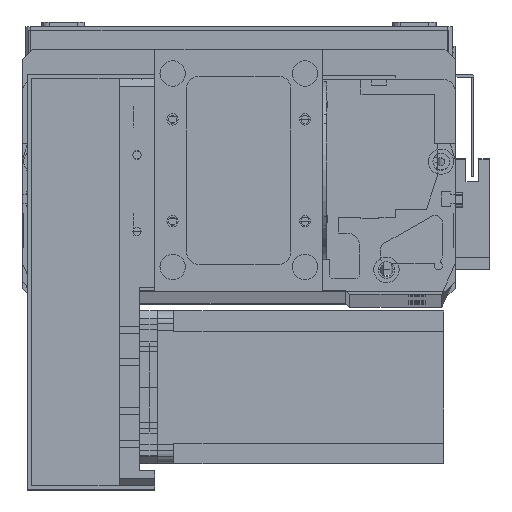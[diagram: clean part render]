
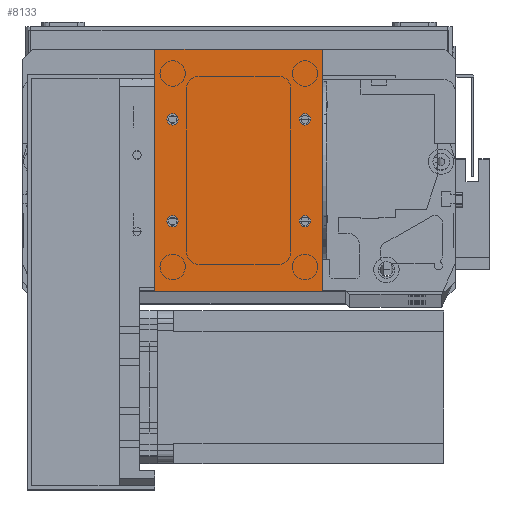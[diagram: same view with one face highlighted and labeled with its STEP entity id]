
A CAD part, top view. The second image highlights one B-rep face of the part: STEP entity #8133.
In plain terms, the highlighted planar face has unit normal (0, 0, 1).
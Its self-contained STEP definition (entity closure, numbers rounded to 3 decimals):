
#50 = CARTESIAN_POINT ( 'NONE',  ( 0., 0., 2. ) ) ;
#226 = DIRECTION ( 'NONE',  ( 0., 0., 1. ) ) ;
#425 = VERTEX_POINT ( 'NONE', #28107 ) ;
#739 = DIRECTION ( 'NONE',  ( 1., 0., 0. ) ) ;
#1051 = CIRCLE ( 'NONE', #2002, 2.25 ) ;
#1779 = VECTOR ( 'NONE', #20737, 1000. ) ;
#1782 = CIRCLE ( 'NONE', #9198, 2.25 ) ;
#1887 = VERTEX_POINT ( 'NONE', #33655 ) ;
#2002 = AXIS2_PLACEMENT_3D ( 'NONE', #16542, #226, #19227 ) ;
#2747 = DIRECTION ( 'NONE',  ( 1., 0., 0. ) ) ;
#2835 = DIRECTION ( 'NONE',  ( 0., -1., 0. ) ) ;
#3244 = EDGE_LOOP ( 'NONE', ( #32224, #17122 ) ) ;
#3737 = AXIS2_PLACEMENT_3D ( 'NONE', #29887, #13954, #32521 ) ;
#3936 = CARTESIAN_POINT ( 'NONE',  ( 66., 95., 2. ) ) ;
#4039 = CARTESIAN_POINT ( 'NONE',  ( 4.75, 27.5, 2. ) ) ;
#4128 = AXIS2_PLACEMENT_3D ( 'NONE', #22958, #22666, #22571 ) ;
#4409 = VERTEX_POINT ( 'NONE', #23104 ) ;
#5133 = AXIS2_PLACEMENT_3D ( 'NONE', #21686, #5594, #24367 ) ;
#5594 = DIRECTION ( 'NONE',  ( 0., 0., 1. ) ) ;
#6600 = EDGE_LOOP ( 'NONE', ( #16199, #31674, #17191, #31506 ) ) ;
#6657 = VERTEX_POINT ( 'NONE', #3936 ) ;
#6850 = CARTESIAN_POINT ( 'NONE',  ( 0., 95., 2. ) ) ;
#6929 = EDGE_CURVE ( 'NONE', #425, #1887, #25823, .T. ) ;
#7018 = VERTEX_POINT ( 'NONE', #27268 ) ;
#7365 = VERTEX_POINT ( 'NONE', #6850 ) ;
#8133 = ADVANCED_FACE ( 'NONE', ( #23633, #30687, #11014, #16525, #9360 ), #23090, .F. ) ;
#8630 = LINE ( 'NONE', #50, #22936 ) ;
#8817 = DIRECTION ( 'NONE',  ( 0., 1., 0. ) ) ;
#9056 = LINE ( 'NONE', #20620, #1779 ) ;
#9198 = AXIS2_PLACEMENT_3D ( 'NONE', #34783, #18975, #2747 ) ;
#9360 = FACE_OUTER_BOUND ( 'NONE', #6600, .T. ) ;
#10267 = VERTEX_POINT ( 'NONE', #25115 ) ;
#10383 = VERTEX_POINT ( 'NONE', #23878 ) ;
#10766 = AXIS2_PLACEMENT_3D ( 'NONE', #28517, #12486, #31132 ) ;
#11014 = FACE_BOUND ( 'NONE', #26679, .T. ) ;
#11975 = VERTEX_POINT ( 'NONE', #4039 ) ;
#12062 = CARTESIAN_POINT ( 'NONE',  ( 59., 27.5, 2. ) ) ;
#12486 = DIRECTION ( 'NONE',  ( 0., 0., 1. ) ) ;
#12512 = AXIS2_PLACEMENT_3D ( 'NONE', #12062, #30727, #14821 ) ;
#12629 = ORIENTED_EDGE ( 'NONE', *, *, #20988, .F. ) ;
#12935 = AXIS2_PLACEMENT_3D ( 'NONE', #29509, #29765, #29701 ) ;
#13006 = VECTOR ( 'NONE', #8817, 1000. ) ;
#13954 = DIRECTION ( 'NONE',  ( 0., 0., 1. ) ) ;
#14821 = DIRECTION ( 'NONE',  ( 1., 0., 0. ) ) ;
#14884 = AXIS2_PLACEMENT_3D ( 'NONE', #32887, #17023, #739 ) ;
#15709 = VERTEX_POINT ( 'NONE', #29114 ) ;
#16199 = ORIENTED_EDGE ( 'NONE', *, *, #30928, .T. ) ;
#16525 = FACE_BOUND ( 'NONE', #31364, .T. ) ;
#16542 = CARTESIAN_POINT ( 'NONE',  ( 7., 27.5, 2. ) ) ;
#17023 = DIRECTION ( 'NONE',  ( 0., 0., 1. ) ) ;
#17100 = VERTEX_POINT ( 'NONE', #27708 ) ;
#17122 = ORIENTED_EDGE ( 'NONE', *, *, #21623, .F. ) ;
#17191 = ORIENTED_EDGE ( 'NONE', *, *, #22238, .T. ) ;
#17238 = DIRECTION ( 'NONE',  ( -1., 0., 0. ) ) ;
#17339 = EDGE_CURVE ( 'NONE', #28778, #7018, #9056, .T. ) ;
#17575 = ORIENTED_EDGE ( 'NONE', *, *, #28016, .F. ) ;
#17773 = ORIENTED_EDGE ( 'NONE', *, *, #28592, .F. ) ;
#18398 = EDGE_CURVE ( 'NONE', #17100, #4409, #24488, .T. ) ;
#18975 = DIRECTION ( 'NONE',  ( 0., 0., 1. ) ) ;
#19205 = LINE ( 'NONE', #19934, #20088 ) ;
#19227 = DIRECTION ( 'NONE',  ( 1., 0., 0. ) ) ;
#19928 = CARTESIAN_POINT ( 'NONE',  ( 0., 0., 2. ) ) ;
#19934 = CARTESIAN_POINT ( 'NONE',  ( 0., 95., 2. ) ) ;
#20088 = VECTOR ( 'NONE', #17238, 1000. ) ;
#20582 = CIRCLE ( 'NONE', #10766, 2.25 ) ;
#20620 = CARTESIAN_POINT ( 'NONE',  ( 0., 0., 2. ) ) ;
#20737 = DIRECTION ( 'NONE',  ( 1., 0., 0. ) ) ;
#20988 = EDGE_CURVE ( 'NONE', #4409, #17100, #33878, .T. ) ;
#21213 = EDGE_LOOP ( 'NONE', ( #26138, #17773 ) ) ;
#21623 = EDGE_CURVE ( 'NONE', #1887, #425, #23518, .T. ) ;
#21686 = CARTESIAN_POINT ( 'NONE',  ( 7., 27.5, 2. ) ) ;
#22238 = EDGE_CURVE ( 'NONE', #7018, #6657, #27208, .T. ) ;
#22434 = EDGE_CURVE ( 'NONE', #10267, #10383, #20582, .T. ) ;
#22571 = DIRECTION ( 'NONE',  ( -1., 0., 0. ) ) ;
#22666 = DIRECTION ( 'NONE',  ( 0., 0., -1. ) ) ;
#22936 = VECTOR ( 'NONE', #2835, 1000. ) ;
#22958 = CARTESIAN_POINT ( 'NONE',  ( 0., 0., 2. ) ) ;
#23090 = PLANE ( 'NONE',  #4128 ) ;
#23104 = CARTESIAN_POINT ( 'NONE',  ( 56.75, 27.5, 2. ) ) ;
#23518 = CIRCLE ( 'NONE', #3737, 2.25 ) ;
#23633 = FACE_BOUND ( 'NONE', #21213, .T. ) ;
#23878 = CARTESIAN_POINT ( 'NONE',  ( 4.75, 67.5, 2. ) ) ;
#24367 = DIRECTION ( 'NONE',  ( 1., 0., 0. ) ) ;
#24488 = CIRCLE ( 'NONE', #12512, 2.25 ) ;
#24893 = CARTESIAN_POINT ( 'NONE',  ( 66., 0., 2. ) ) ;
#25115 = CARTESIAN_POINT ( 'NONE',  ( 9.25, 67.5, 2. ) ) ;
#25376 = ORIENTED_EDGE ( 'NONE', *, *, #18398, .F. ) ;
#25823 = CIRCLE ( 'NONE', #12935, 2.25 ) ;
#26070 = EDGE_CURVE ( 'NONE', #11975, #15709, #1051, .T. ) ;
#26138 = ORIENTED_EDGE ( 'NONE', *, *, #22434, .F. ) ;
#26679 = EDGE_LOOP ( 'NONE', ( #25376, #12629 ) ) ;
#27114 = EDGE_CURVE ( 'NONE', #6657, #7365, #19205, .T. ) ;
#27208 = LINE ( 'NONE', #24893, #13006 ) ;
#27250 = ORIENTED_EDGE ( 'NONE', *, *, #26070, .F. ) ;
#27268 = CARTESIAN_POINT ( 'NONE',  ( 66., 0., 2. ) ) ;
#27708 = CARTESIAN_POINT ( 'NONE',  ( 61.25, 27.5, 2. ) ) ;
#28016 = EDGE_CURVE ( 'NONE', #15709, #11975, #32046, .T. ) ;
#28107 = CARTESIAN_POINT ( 'NONE',  ( 61.25, 67.5, 2. ) ) ;
#28517 = CARTESIAN_POINT ( 'NONE',  ( 7., 67.5, 2. ) ) ;
#28592 = EDGE_CURVE ( 'NONE', #10383, #10267, #1782, .T. ) ;
#28778 = VERTEX_POINT ( 'NONE', #19928 ) ;
#29114 = CARTESIAN_POINT ( 'NONE',  ( 9.25, 27.5, 2. ) ) ;
#29509 = CARTESIAN_POINT ( 'NONE',  ( 59., 67.5, 2. ) ) ;
#29701 = DIRECTION ( 'NONE',  ( 1., 0., 0. ) ) ;
#29765 = DIRECTION ( 'NONE',  ( 0., 0., 1. ) ) ;
#29887 = CARTESIAN_POINT ( 'NONE',  ( 59., 67.5, 2. ) ) ;
#30687 = FACE_BOUND ( 'NONE', #3244, .T. ) ;
#30727 = DIRECTION ( 'NONE',  ( 0., 0., 1. ) ) ;
#30928 = EDGE_CURVE ( 'NONE', #7365, #28778, #8630, .T. ) ;
#31132 = DIRECTION ( 'NONE',  ( 1., 0., 0. ) ) ;
#31364 = EDGE_LOOP ( 'NONE', ( #17575, #27250 ) ) ;
#31506 = ORIENTED_EDGE ( 'NONE', *, *, #27114, .T. ) ;
#31674 = ORIENTED_EDGE ( 'NONE', *, *, #17339, .T. ) ;
#32046 = CIRCLE ( 'NONE', #5133, 2.25 ) ;
#32224 = ORIENTED_EDGE ( 'NONE', *, *, #6929, .F. ) ;
#32521 = DIRECTION ( 'NONE',  ( 1., 0., 0. ) ) ;
#32887 = CARTESIAN_POINT ( 'NONE',  ( 59., 27.5, 2. ) ) ;
#33655 = CARTESIAN_POINT ( 'NONE',  ( 56.75, 67.5, 2. ) ) ;
#33878 = CIRCLE ( 'NONE', #14884, 2.25 ) ;
#34783 = CARTESIAN_POINT ( 'NONE',  ( 7., 67.5, 2. ) ) ;
